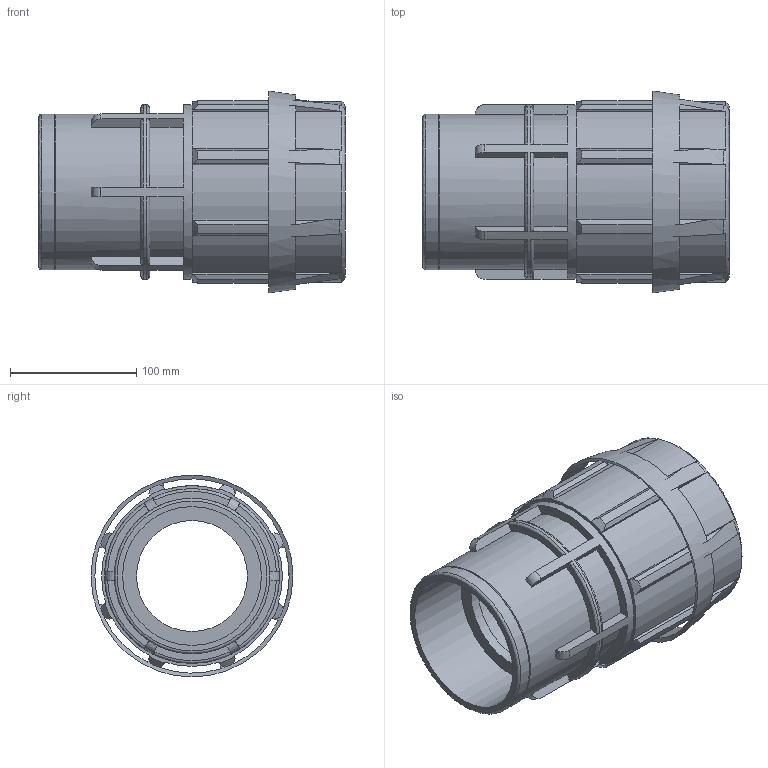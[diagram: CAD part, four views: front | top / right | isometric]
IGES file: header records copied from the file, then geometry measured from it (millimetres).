
Global section: file name: 0703060900400A.ipt; native system: Autodesk Inventor 2015; preprocessor: unknown; author: KIM; date: 20180325.201152; units: millimetre
Bounding box: 243 x 160.08 x 160.08 mm (x, y, z)
Volume: 1219972.7 mm3; surface area: 243601.4 mm2
Topology: 1 solids, 1 shells, 150 faces, 460 edges, 306 vertices
Faces by surface type: plane 80, revolution 34, cylinder 25, cone 11
Full cylindrical faces by diameter (mm): 123.2 x2, 138.6 x1
